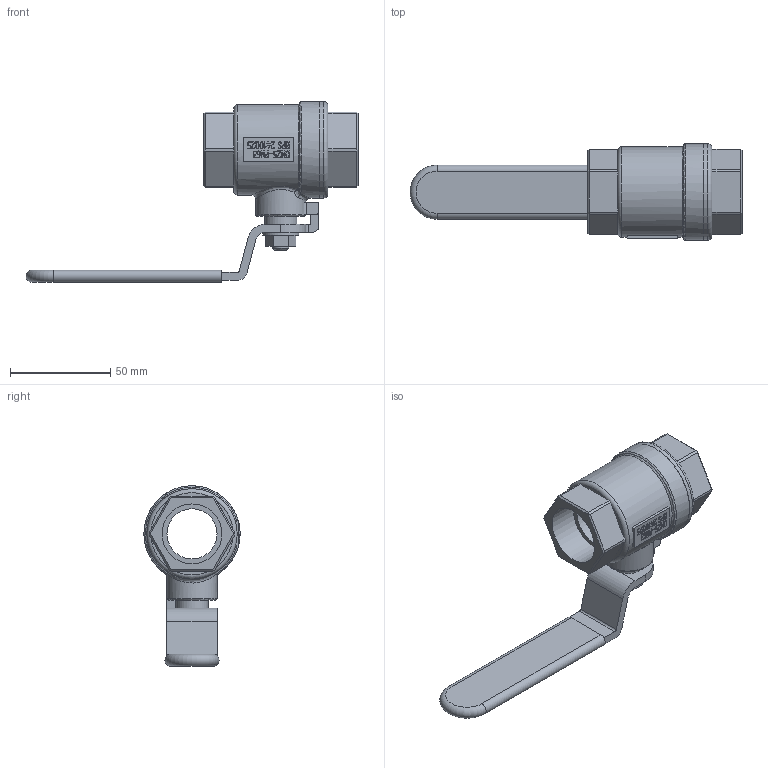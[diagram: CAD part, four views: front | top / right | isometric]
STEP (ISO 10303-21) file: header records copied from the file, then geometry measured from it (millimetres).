
FILE_DESCRIPTION( ( 'Unknown' ), '1' );
FILE_NAME( 'C:/Documents and Settings/Klaus/My Documents/Rootsi BPS 3D, Klaus/BPS 2410 ball valve, 2-pcs/STEP/BPS2410025 ball valve DN25.stp', 'Unknown', ( 'Unknown' ), ( 'Unknown' ), 'PSStep 10.1', 'Unknown', ' ' );
FILE_SCHEMA( ( 'AUTOMOTIVE_DESIGN { 1 0 10303 214 1 1 1 1 }' ) );
Length unit declared in the file: millimetre
Products named in the file (2): 1; 2
Bounding box: 165.5 x 48 x 90 mm (x, y, z)
Volume: 98934.1 mm3; surface area: 32977.1 mm2
Topology: 2 solids, 2 shells, 313 faces, 773 edges, 497 vertices
Faces by surface type: plane 221, extrusion 53, cylinder 24, bspline 8, torus 6, cone 1
Full cylindrical faces by diameter (mm): 8 x1, 16 x1, 18 x1, 25 x3, 29.835 x2, 45 x1, 48 x2
Entity records: 15474 total; most frequent: CARTESIAN_POINT 6301, ORIENTED_EDGE 1488, DIRECTION 1040, EDGE_CURVE 744, VERTEX_POINT 489, VECTOR 392, B_SPLINE_CURVE_WITH_KNOTS 388, EDGE_LOOP 371
